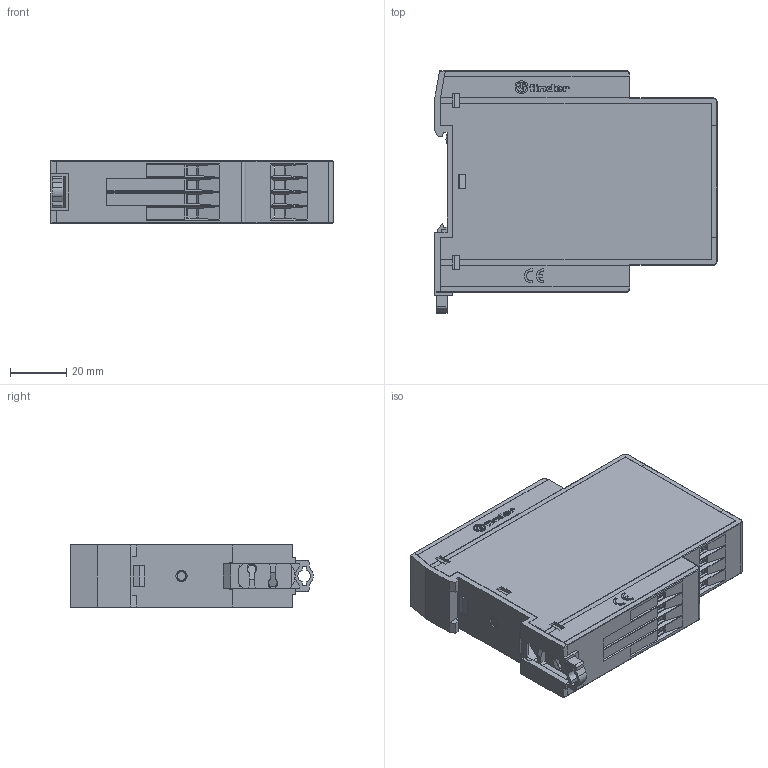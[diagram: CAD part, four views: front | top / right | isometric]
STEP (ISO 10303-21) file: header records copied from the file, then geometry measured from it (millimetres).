
FILE_DESCRIPTION(/* description */ ('Unknown'),/* implementation_level */ '2;1');
FILE_NAME(/* name */ '7S34 unico',/* time_stamp */ '2018-02-12T15:29:07+01:00',/* author */ ('Unknown'),/* organization */ ('Unknown'),/* preprocessor_version */ 'ST-DEVELOPER v16.7',/* originating_system */ 'DEX',/* authorisation */ $);
FILE_SCHEMA (('AP242_MANAGED_MODEL_BASED_3D_ENGINEERING_MIM_LF { 1 0 10303 442 1 1 4 }','AUTOMOTIVE_DESIGN {1 0 10303 214 3 1 1}'));
Products named in the file (1): 7S34 unico
Bounding box: 100.3 x 86.25 x 22.5 mm (x, y, z)
Surface area: 58273.9 mm2 (no closed solid volume)
Topology: 0 solids, 183 shells, 2414 faces, 9227 edges, 6938 vertices
Faces by surface type: plane 2126, cylinder 193, cone 49, torus 32, bspline 14
Full cylindrical faces by diameter (mm): 3 x2, 4.566 x2, 4.6 x12, 4.7 x16
Entity records: 97045 total; most frequent: CARTESIAN_POINT 19581, DIRECTION 14686, ORIENTED_EDGE 14433, EDGE_CURVE 9170, LINE 8080, VECTOR 8080, VERTEX_POINT 6914, AXIS2_PLACEMENT_3D 3303
